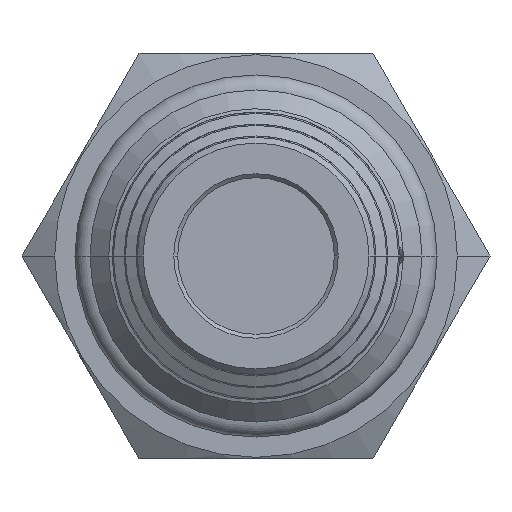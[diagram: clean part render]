
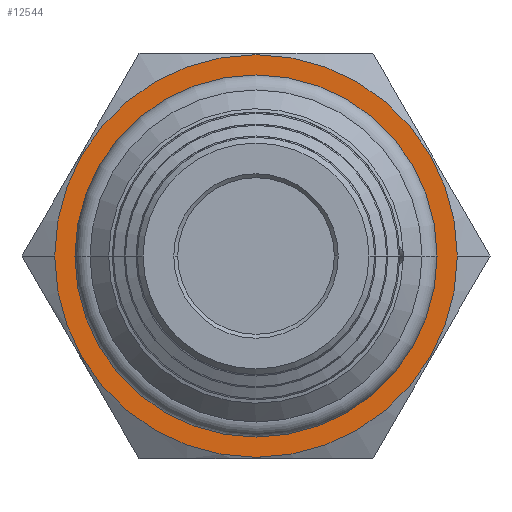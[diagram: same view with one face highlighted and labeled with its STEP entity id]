
A CAD part, front view. The second image highlights one B-rep face of the part: STEP entity #12544.
In plain terms, the highlighted planar face has unit normal (0, -1, 0).
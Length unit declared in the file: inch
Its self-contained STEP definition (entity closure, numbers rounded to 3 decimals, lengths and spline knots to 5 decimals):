
#5662=CARTESIAN_POINT('',(0.,0.,0.));
#5663=DIRECTION('',(0.,-1.,0.));
#5664=DIRECTION('',(1.,0.,0.));
#5665=AXIS2_PLACEMENT_3D('',#5662,#5663,#5664);
#5670=CARTESIAN_POINT('',(0.,0.,0.));
#5671=DIRECTION('',(0.,1.,0.));
#5672=DIRECTION('',(1.,0.,0.));
#5673=AXIS2_PLACEMENT_3D('',#5670,#5671,#5672);
#5678=CARTESIAN_POINT('',(0.,0.,0.));
#5679=DIRECTION('',(0.,-1.,0.));
#5680=DIRECTION('',(1.,0.,0.));
#5681=AXIS2_PLACEMENT_3D('',#5678,#5679,#5680);
#5686=CARTESIAN_POINT('',(0.,0.,0.));
#5687=DIRECTION('',(0.,-1.,0.));
#5688=DIRECTION('',(-1.,0.,0.));
#5689=AXIS2_PLACEMENT_3D('',#5686,#5687,#5688);
#9965=CARTESIAN_POINT('',(0.5275,0.,0.));
#9967=VERTEX_POINT('',#9965);
#9993=CARTESIAN_POINT('',(-0.5275,0.,0.));
#9995=VERTEX_POINT('',#9993);
#10302=CARTESIAN_POINT('',(0.43579,0.,0.));
#10303=CARTESIAN_POINT('',(-0.43579,0.,0.));
#10304=VERTEX_POINT('',#10302);
#10305=VERTEX_POINT('',#10303);
#12528=CARTESIAN_POINT('',(0.,0.,0.));
#12529=DIRECTION('',(0.,1.,0.));
#12530=DIRECTION('',(1.,0.,0.));
#12531=AXIS2_PLACEMENT_3D('',#12528,#12529,#12530);
#12532=PLANE('',#12531);
#12534=ORIENTED_EDGE('',*,*,#12533,.F.);
#12536=ORIENTED_EDGE('',*,*,#12535,.T.);
#12537=EDGE_LOOP('',(#12534,#12536));
#12538=FACE_OUTER_BOUND('',#12537,.F.);
#12540=ORIENTED_EDGE('',*,*,#12539,.T.);
#12541=ORIENTED_EDGE('',*,*,#12518,.T.);
#12542=EDGE_LOOP('',(#12540,#12541));
#12543=FACE_BOUND('',#12542,.F.);
#5666=CIRCLE('',#5665,0.5275);
#5674=CIRCLE('',#5673,0.5275);
#5682=CIRCLE('',#5681,0.43579);
#5690=CIRCLE('',#5689,0.43579);
#12518=EDGE_CURVE('',#10305,#10304,#5690,.T.);
#12533=EDGE_CURVE('',#9967,#9995,#5666,.T.);
#12535=EDGE_CURVE('',#9967,#9995,#5674,.T.);
#12539=EDGE_CURVE('',#10304,#10305,#5682,.T.);
#12544=ADVANCED_FACE('',(#12538,#12543),#12532,.F.);
